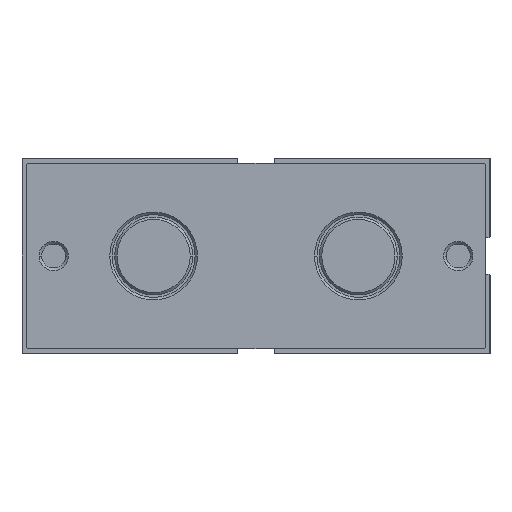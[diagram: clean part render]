
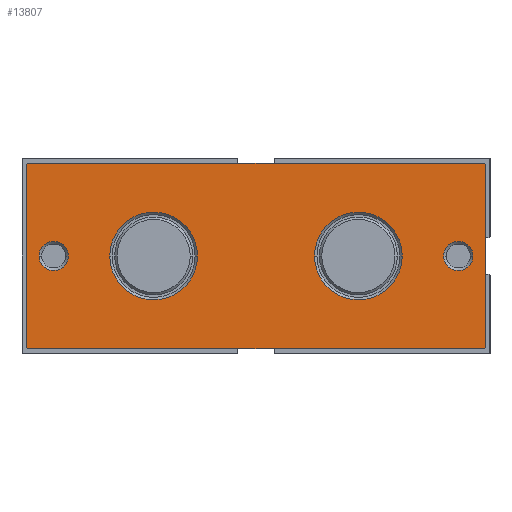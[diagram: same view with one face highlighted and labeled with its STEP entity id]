
A CAD part, left-side view. The second image highlights one B-rep face of the part: STEP entity #13807.
In plain terms, the highlighted planar face has unit normal (-1, 0, 0).
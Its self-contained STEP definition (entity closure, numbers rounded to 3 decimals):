
#268 = CARTESIAN_POINT ( 'NONE',  ( 0., 19., 38.5 ) ) ;
#325 = AXIS2_PLACEMENT_3D ( 'NONE', #11031, #24262, #12941 ) ;
#592 = DIRECTION ( 'NONE',  ( 1., 0., 0. ) ) ;
#1029 = VERTEX_POINT ( 'NONE', #5109 ) ;
#1048 = DIRECTION ( 'NONE',  ( 0., -0.707, 0.707 ) ) ;
#1067 = VERTEX_POINT ( 'NONE', #5199 ) ;
#1352 = EDGE_CURVE ( 'NONE', #16472, #19658, #23216, .T. ) ;
#1405 = ORIENTED_EDGE ( 'NONE', *, *, #3373, .T. ) ;
#1626 = VERTEX_POINT ( 'NONE', #9583 ) ;
#1730 = VERTEX_POINT ( 'NONE', #5872 ) ;
#1794 = VECTOR ( 'NONE', #1048, 1000. ) ;
#1842 = VERTEX_POINT ( 'NONE', #19173 ) ;
#2060 = EDGE_CURVE ( 'NONE', #22982, #1626, #20457, .T. ) ;
#2129 = EDGE_LOOP ( 'NONE', ( #21516, #24350 ) ) ;
#2242 = CARTESIAN_POINT ( 'NONE',  ( 0., 19., -38.5 ) ) ;
#2324 = DIRECTION ( 'NONE',  ( 0., 0., -1. ) ) ;
#2377 = DIRECTION ( 'NONE',  ( -1., 0., 0. ) ) ;
#2416 = EDGE_LOOP ( 'NONE', ( #5584, #11628 ) ) ;
#2432 = EDGE_CURVE ( 'NONE', #19317, #14065, #18070, .T. ) ;
#2589 = AXIS2_PLACEMENT_3D ( 'NONE', #20125, #18214, #10825 ) ;
#2755 = DIRECTION ( 'NONE',  ( 0., 0., 1. ) ) ;
#3016 = ORIENTED_EDGE ( 'NONE', *, *, #3403, .F. ) ;
#3373 = EDGE_CURVE ( 'NONE', #21967, #7334, #12151, .T. ) ;
#3403 = EDGE_CURVE ( 'NONE', #1730, #11058, #21262, .T. ) ;
#3551 = CARTESIAN_POINT ( 'NONE',  ( 0., 37.8, -47. ) ) ;
#3715 = VERTEX_POINT ( 'NONE', #16275 ) ;
#4008 = ORIENTED_EDGE ( 'NONE', *, *, #23336, .F. ) ;
#4166 = CARTESIAN_POINT ( 'NONE',  ( 0., 0., 46.8 ) ) ;
#4301 = VECTOR ( 'NONE', #24230, 1000. ) ;
#4595 = ORIENTED_EDGE ( 'NONE', *, *, #14709, .T. ) ;
#4630 = CARTESIAN_POINT ( 'NONE',  ( 0., 0., -46.8 ) ) ;
#4673 = CIRCLE ( 'NONE', #2589, 3. ) ;
#4771 = CARTESIAN_POINT ( 'NONE',  ( 0., 0.2, -47. ) ) ;
#5109 = CARTESIAN_POINT ( 'NONE',  ( 0., 0., 46.8 ) ) ;
#5199 = CARTESIAN_POINT ( 'NONE',  ( 0., 19., 12. ) ) ;
#5584 = ORIENTED_EDGE ( 'NONE', *, *, #2432, .F. ) ;
#5677 = VECTOR ( 'NONE', #15398, 1000. ) ;
#5850 = CIRCLE ( 'NONE', #10318, 9. ) ;
#5872 = CARTESIAN_POINT ( 'NONE',  ( 0., 19., 44.5 ) ) ;
#6206 = CARTESIAN_POINT ( 'NONE',  ( 0., 19., 21. ) ) ;
#6308 = DIRECTION ( 'NONE',  ( -1., 0., 0. ) ) ;
#6463 = DIRECTION ( 'NONE',  ( 0., 0., 1. ) ) ;
#6631 = ORIENTED_EDGE ( 'NONE', *, *, #8622, .F. ) ;
#6763 = ORIENTED_EDGE ( 'NONE', *, *, #2060, .F. ) ;
#6785 = VECTOR ( 'NONE', #18211, 1000. ) ;
#7104 = DIRECTION ( 'NONE',  ( -1., 0., 0. ) ) ;
#7187 = AXIS2_PLACEMENT_3D ( 'NONE', #11118, #9464, #20751 ) ;
#7334 = VERTEX_POINT ( 'NONE', #4630 ) ;
#7429 = DIRECTION ( 'NONE',  ( 0., 0.707, 0.707 ) ) ;
#8168 = VERTEX_POINT ( 'NONE', #15434 ) ;
#8198 = CARTESIAN_POINT ( 'NONE',  ( 0., 0.2, 47. ) ) ;
#8263 = FACE_BOUND ( 'NONE', #2416, .T. ) ;
#8308 = EDGE_CURVE ( 'NONE', #14065, #19317, #15295, .T. ) ;
#8596 = CIRCLE ( 'NONE', #18421, 9. ) ;
#8622 = EDGE_CURVE ( 'NONE', #1626, #22982, #20541, .T. ) ;
#8681 = CARTESIAN_POINT ( 'NONE',  ( 0., 38., -46.8 ) ) ;
#8725 = CARTESIAN_POINT ( 'NONE',  ( 0., 0., -46.8 ) ) ;
#8857 = FACE_OUTER_BOUND ( 'NONE', #23481, .T. ) ;
#9138 = FACE_BOUND ( 'NONE', #19515, .T. ) ;
#9173 = CARTESIAN_POINT ( 'NONE',  ( 0., 38., 46.8 ) ) ;
#9464 = DIRECTION ( 'NONE',  ( -1., 0., 0. ) ) ;
#9558 = EDGE_CURVE ( 'NONE', #16472, #1029, #21646, .T. ) ;
#9583 = CARTESIAN_POINT ( 'NONE',  ( 0., 19., -44.5 ) ) ;
#9999 = CARTESIAN_POINT ( 'NONE',  ( 0., 0., 0. ) ) ;
#10171 = EDGE_CURVE ( 'NONE', #7334, #1029, #21625, .T. ) ;
#10318 = AXIS2_PLACEMENT_3D ( 'NONE', #6206, #21463, #17556 ) ;
#10779 = EDGE_CURVE ( 'NONE', #8168, #1067, #8596, .T. ) ;
#10825 = DIRECTION ( 'NONE',  ( 0., 0., 1. ) ) ;
#11031 = CARTESIAN_POINT ( 'NONE',  ( 0., 19., -41.5 ) ) ;
#11058 = VERTEX_POINT ( 'NONE', #268 ) ;
#11118 = CARTESIAN_POINT ( 'NONE',  ( 0., 19., -41.5 ) ) ;
#11330 = ORIENTED_EDGE ( 'NONE', *, *, #10171, .T. ) ;
#11388 = VECTOR ( 'NONE', #17318, 1000. ) ;
#11628 = ORIENTED_EDGE ( 'NONE', *, *, #8308, .F. ) ;
#11806 = LINE ( 'NONE', #8681, #6785 ) ;
#11971 = CARTESIAN_POINT ( 'NONE',  ( 0., 37.8, 47. ) ) ;
#12044 = CARTESIAN_POINT ( 'NONE',  ( 0., 19., -21. ) ) ;
#12151 = LINE ( 'NONE', #8725, #1794 ) ;
#12396 = CARTESIAN_POINT ( 'NONE',  ( 0., 19., 41.5 ) ) ;
#12796 = VECTOR ( 'NONE', #7429, 1000. ) ;
#12844 = EDGE_CURVE ( 'NONE', #16766, #3715, #11806, .T. ) ;
#12941 = DIRECTION ( 'NONE',  ( 0., 0., 1. ) ) ;
#13441 = AXIS2_PLACEMENT_3D ( 'NONE', #21890, #23563, #6463 ) ;
#13521 = CARTESIAN_POINT ( 'NONE',  ( 0., 0.2, 47. ) ) ;
#13593 = DIRECTION ( 'NONE',  ( 0., 0., 1. ) ) ;
#13661 = EDGE_CURVE ( 'NONE', #16766, #19658, #15071, .T. ) ;
#13807 = ADVANCED_FACE ( 'NONE', ( #8857, #20338, #9138, #13873, #8263 ), #21539, .F. ) ;
#13814 = AXIS2_PLACEMENT_3D ( 'NONE', #9999, #592, #2324 ) ;
#13873 = FACE_BOUND ( 'NONE', #2129, .T. ) ;
#13985 = CARTESIAN_POINT ( 'NONE',  ( 0., 19., -12. ) ) ;
#14065 = VERTEX_POINT ( 'NONE', #21255 ) ;
#14709 = EDGE_CURVE ( 'NONE', #1842, #21967, #16108, .T. ) ;
#15071 = LINE ( 'NONE', #21126, #17666 ) ;
#15295 = CIRCLE ( 'NONE', #21078, 9. ) ;
#15398 = DIRECTION ( 'NONE',  ( 0., 0., 1. ) ) ;
#15434 = CARTESIAN_POINT ( 'NONE',  ( 0., 19., 30. ) ) ;
#16108 = LINE ( 'NONE', #22409, #4301 ) ;
#16275 = CARTESIAN_POINT ( 'NONE',  ( 0., 38., -46.8 ) ) ;
#16472 = VERTEX_POINT ( 'NONE', #8198 ) ;
#16754 = EDGE_CURVE ( 'NONE', #1842, #3715, #21946, .T. ) ;
#16766 = VERTEX_POINT ( 'NONE', #9173 ) ;
#17076 = ORIENTED_EDGE ( 'NONE', *, *, #13661, .F. ) ;
#17318 = DIRECTION ( 'NONE',  ( 0., 1., 0. ) ) ;
#17556 = DIRECTION ( 'NONE',  ( 0., 0., 1. ) ) ;
#17641 = ORIENTED_EDGE ( 'NONE', *, *, #9558, .F. ) ;
#17666 = VECTOR ( 'NONE', #20882, 1000. ) ;
#18070 = CIRCLE ( 'NONE', #13441, 9. ) ;
#18211 = DIRECTION ( 'NONE',  ( 0., 0., -1. ) ) ;
#18214 = DIRECTION ( 'NONE',  ( -1., 0., 0. ) ) ;
#18421 = AXIS2_PLACEMENT_3D ( 'NONE', #21404, #6308, #2755 ) ;
#18961 = AXIS2_PLACEMENT_3D ( 'NONE', #12396, #7104, #21166 ) ;
#19044 = ORIENTED_EDGE ( 'NONE', *, *, #1352, .T. ) ;
#19173 = CARTESIAN_POINT ( 'NONE',  ( 0., 37.8, -47. ) ) ;
#19317 = VERTEX_POINT ( 'NONE', #13985 ) ;
#19515 = EDGE_LOOP ( 'NONE', ( #6763, #6631 ) ) ;
#19658 = VERTEX_POINT ( 'NONE', #11971 ) ;
#20125 = CARTESIAN_POINT ( 'NONE',  ( 0., 19., 41.5 ) ) ;
#20338 = FACE_BOUND ( 'NONE', #21842, .T. ) ;
#20457 = CIRCLE ( 'NONE', #325, 3. ) ;
#20541 = CIRCLE ( 'NONE', #7187, 3. ) ;
#20751 = DIRECTION ( 'NONE',  ( 0., 0., 1. ) ) ;
#20882 = DIRECTION ( 'NONE',  ( 0., -0.707, 0.707 ) ) ;
#20899 = CARTESIAN_POINT ( 'NONE',  ( 0., 37.8, 47. ) ) ;
#21078 = AXIS2_PLACEMENT_3D ( 'NONE', #12044, #2377, #13593 ) ;
#21126 = CARTESIAN_POINT ( 'NONE',  ( 0., 38., 46.8 ) ) ;
#21166 = DIRECTION ( 'NONE',  ( 0., 0., 1. ) ) ;
#21255 = CARTESIAN_POINT ( 'NONE',  ( 0., 19., -30. ) ) ;
#21262 = CIRCLE ( 'NONE', #18961, 3. ) ;
#21404 = CARTESIAN_POINT ( 'NONE',  ( 0., 19., 21. ) ) ;
#21424 = ORIENTED_EDGE ( 'NONE', *, *, #16754, .F. ) ;
#21463 = DIRECTION ( 'NONE',  ( -1., 0., 0. ) ) ;
#21516 = ORIENTED_EDGE ( 'NONE', *, *, #10779, .F. ) ;
#21539 = PLANE ( 'NONE',  #13814 ) ;
#21625 = LINE ( 'NONE', #4166, #5677 ) ;
#21646 = LINE ( 'NONE', #13521, #24042 ) ;
#21842 = EDGE_LOOP ( 'NONE', ( #3016, #4008 ) ) ;
#21890 = CARTESIAN_POINT ( 'NONE',  ( 0., 19., -21. ) ) ;
#21946 = LINE ( 'NONE', #3551, #12796 ) ;
#21967 = VERTEX_POINT ( 'NONE', #4771 ) ;
#21992 = ORIENTED_EDGE ( 'NONE', *, *, #12844, .T. ) ;
#22409 = CARTESIAN_POINT ( 'NONE',  ( 0., 0.2, -47. ) ) ;
#22982 = VERTEX_POINT ( 'NONE', #2242 ) ;
#23033 = DIRECTION ( 'NONE',  ( 0., -0.707, -0.707 ) ) ;
#23112 = EDGE_CURVE ( 'NONE', #1067, #8168, #5850, .T. ) ;
#23216 = LINE ( 'NONE', #20899, #11388 ) ;
#23336 = EDGE_CURVE ( 'NONE', #11058, #1730, #4673, .T. ) ;
#23481 = EDGE_LOOP ( 'NONE', ( #17076, #21992, #21424, #4595, #1405, #11330, #17641, #19044 ) ) ;
#23563 = DIRECTION ( 'NONE',  ( -1., 0., 0. ) ) ;
#24042 = VECTOR ( 'NONE', #23033, 1000. ) ;
#24230 = DIRECTION ( 'NONE',  ( 0., -1., 0. ) ) ;
#24262 = DIRECTION ( 'NONE',  ( -1., 0., 0. ) ) ;
#24350 = ORIENTED_EDGE ( 'NONE', *, *, #23112, .F. ) ;
